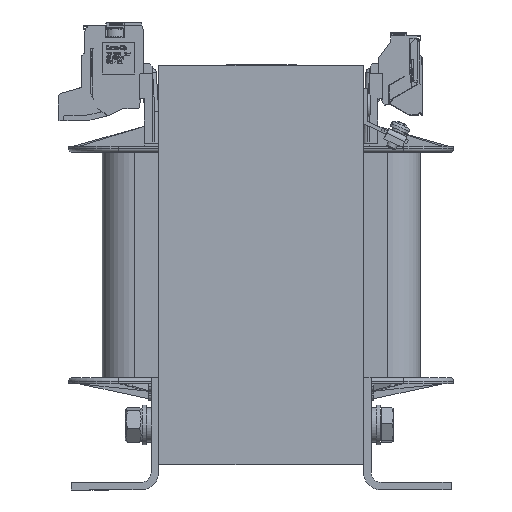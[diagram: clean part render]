
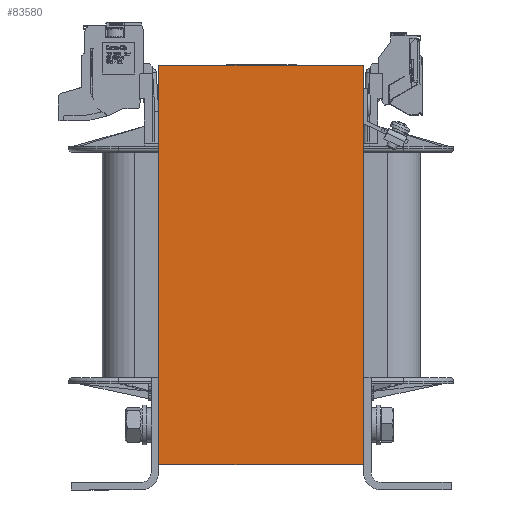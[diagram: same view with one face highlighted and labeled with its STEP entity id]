
A CAD part, left-side view. The second image highlights one B-rep face of the part: STEP entity #83580.
In plain terms, the highlighted planar face has unit normal (-1, 0, 0).
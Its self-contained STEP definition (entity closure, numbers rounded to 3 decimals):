
#1198=PLANE('',#88548);
#4783=FACE_OUTER_BOUND('',#9299,.T.);
#9299=EDGE_LOOP('',(#58083,#58084,#58085,#58086));
#14008=LINE('',#117455,#24808);
#14010=LINE('',#117460,#24810);
#14011=LINE('',#117461,#24811);
#14012=LINE('',#117462,#24812);
#24808=VECTOR('',#94693,10.);
#24810=VECTOR('',#94697,10.);
#24811=VECTOR('',#94698,10.);
#24812=VECTOR('',#94699,10.);
#37019=VERTEX_POINT('',#117452);
#37020=VERTEX_POINT('',#117454);
#37021=VERTEX_POINT('',#117458);
#37022=VERTEX_POINT('',#117459);
#45283=EDGE_CURVE('',#37020,#37019,#14008,.T.);
#45285=EDGE_CURVE('',#37021,#37022,#14010,.T.);
#45286=EDGE_CURVE('',#37022,#37020,#14011,.T.);
#45287=EDGE_CURVE('',#37021,#37019,#14012,.T.);
#58083=ORIENTED_EDGE('',*,*,#45285,.T.);
#58084=ORIENTED_EDGE('',*,*,#45286,.T.);
#58085=ORIENTED_EDGE('',*,*,#45283,.T.);
#58086=ORIENTED_EDGE('',*,*,#45287,.F.);
#83580=ADVANCED_FACE('',(#4783),#1198,.T.);
#88548=AXIS2_PLACEMENT_3D('',#117457,#94695,#94696);
#94693=DIRECTION('',(0.,0.,1.));
#94695=DIRECTION('center_axis',(-1.,0.,0.));
#94696=DIRECTION('ref_axis',(0.,0.,1.));
#94697=DIRECTION('',(0.,0.,-1.));
#94698=DIRECTION('',(0.,-1.,0.));
#94699=DIRECTION('',(0.,-1.,0.));
#117452=CARTESIAN_POINT('',(-96.,-41.,80.));
#117454=CARTESIAN_POINT('',(-96.,-41.,-80.));
#117455=CARTESIAN_POINT('',(-96.,-41.,80.));
#117457=CARTESIAN_POINT('Origin',(-96.,0.,80.));
#117458=CARTESIAN_POINT('',(-96.,41.,80.));
#117459=CARTESIAN_POINT('',(-96.,41.,-80.));
#117460=CARTESIAN_POINT('',(-96.,41.,80.));
#117461=CARTESIAN_POINT('',(-96.,0.,-80.));
#117462=CARTESIAN_POINT('',(-96.,0.,80.));
